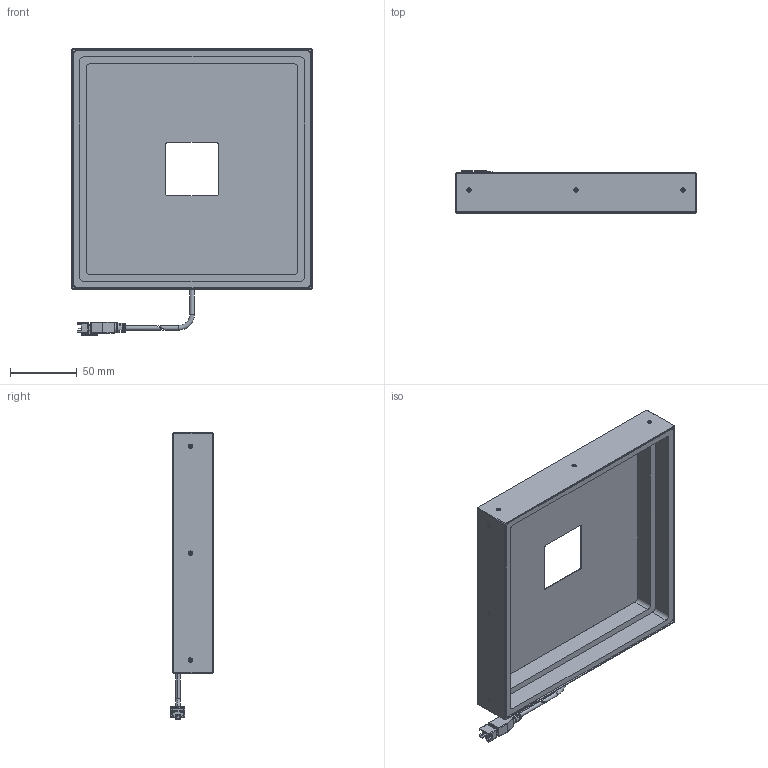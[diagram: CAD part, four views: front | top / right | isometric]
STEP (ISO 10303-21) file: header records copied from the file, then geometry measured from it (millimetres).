
FILE_DESCRIPTION (( 'STEP AP214' ), '1' );
FILE_NAME ('CST-FQS180-¼òÒ×3DÍ¼.STEP', '2022-12-28T06:43:35', ( '' ), ( '' ), 'SwSTEP 2.0', 'SolidWorks 2018', '' );
FILE_SCHEMA (( 'AUTOMOTIVE_DESIGN' ));
Length unit declared in the file: millimetre
Products named in the file (1): CST-FQS180-潠眢3D芞
Bounding box: 180 x 31.55 x 214.26 mm (x, y, z)
Volume: 175531.1 mm3; surface area: 173082.2 mm2
Topology: 6 solids, 6 shells, 531 faces, 1352 edges, 809 vertices
Faces by surface type: plane 218, cylinder 193, cone 84, bspline 28, torus 8
Entity records: 22142 total; most frequent: CARTESIAN_POINT 3507, DIRECTION 2718, ORIENTED_EDGE 2584, EDGE_CURVE 1292, AXIS2_PLACEMENT_3D 968, VERTEX_POINT 809, LINE 782, VECTOR 782
